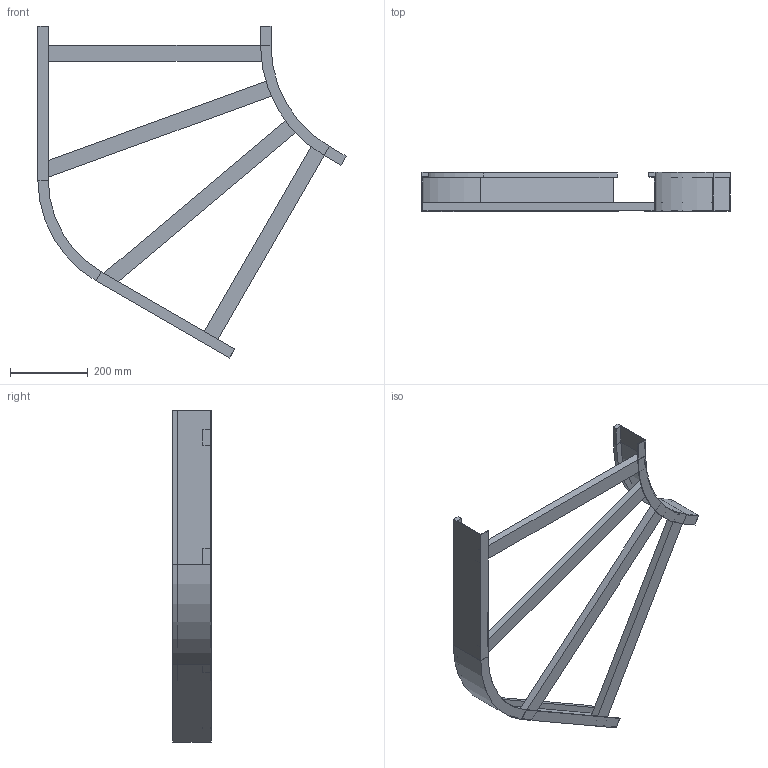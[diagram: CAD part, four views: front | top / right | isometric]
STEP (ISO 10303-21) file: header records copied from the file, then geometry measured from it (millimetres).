
FILE_DESCRIPTION (( 'STEP AP214' ), '1' );
FILE_NAME ('B2_13B3D600.step', '2025-02-21T15:18:27', ( '' ), ( '' ), 'SwSTEP 2.0', 'SolidWorks 2023', '' );
FILE_SCHEMA (( 'AUTOMOTIVE_DESIGN' ));
Length unit declared in the file: millimetre
Products named in the file (5): B2_13B3D600; TRAVERSINO_600; TRAVERSINO_700_SCANTONATO; B2_LONGH.ESTERNO 60°_H100_R300+600; B2_LONGH.INTERNO 60°_H100_R300
Assembly tree (6 placements, depth 2):
  B2_13B3D600
    B2_LONGH.INTERNO 60°_H100_R300
    B2_LONGH.ESTERNO 60°_H100_R300+600
    TRAVERSINO_600  x2
    TRAVERSINO_700_SCANTONATO  x2
Bounding box: 793.3 x 100 x 854.42 mm (x, y, z)
Volume: 2697842 mm3; surface area: 745972.1 mm2
Topology: 6 solids, 6 shells, 76 faces, 160 edges, 96 vertices
Faces by surface type: plane 68, cylinder 8
Entity records: 1830 total; most frequent: DIRECTION 298, CARTESIAN_POINT 289, ORIENTED_EDGE 272, EDGE_CURVE 136, VECTOR 120, LINE 120, AXIS2_PLACEMENT_3D 89, VERTEX_POINT 80
